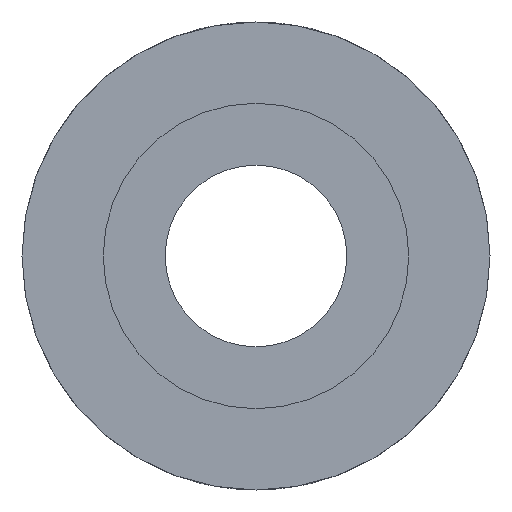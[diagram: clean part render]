
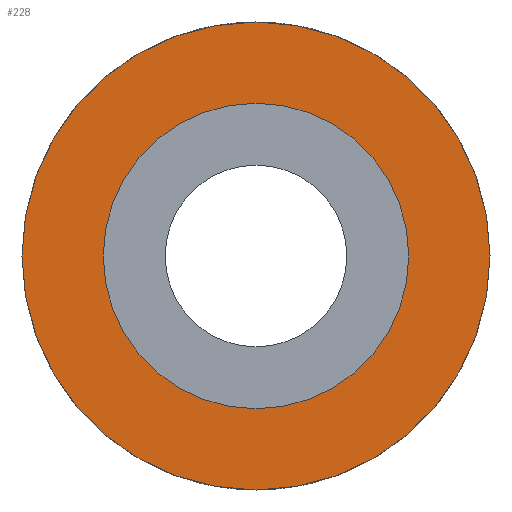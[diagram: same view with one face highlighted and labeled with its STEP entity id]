
A CAD part, left-side view. The second image highlights one B-rep face of the part: STEP entity #228.
In plain terms, the highlighted planar face has unit normal (-1, 0, 0).
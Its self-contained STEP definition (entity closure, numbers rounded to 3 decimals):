
#25=FACE_BOUND($,#76,.T.);
#42=CIRCLE($,#256,0.597);
#44=CIRCLE($,#259,0.914);
#57=FACE_OUTER_BOUND($,#75,.T.);
#75=EDGE_LOOP($,(#197));
#76=EDGE_LOOP($,(#198));
#122=VERTEX_POINT($,#395);
#124=VERTEX_POINT($,#400);
#149=EDGE_CURVE($,#122,#122,#42,.T.);
#151=EDGE_CURVE($,#124,#124,#44,.T.);
#197=ORIENTED_EDGE($,*,*,#151,.F.);
#198=ORIENTED_EDGE($,*,*,#149,.T.);
#214=PLANE($,#258);
#228=ADVANCED_FACE($,(#57,#25),#214,.T.);
#256=AXIS2_PLACEMENT_3D($,#396,#316,#317);
#258=AXIS2_PLACEMENT_3D($,#399,#320,#321);
#259=AXIS2_PLACEMENT_3D($,#401,#322,#323);
#316=DIRECTION('center_axis',(1.,0.,0.));
#317=DIRECTION('ref_axis',(0.,1.,0.));
#320=DIRECTION('center_axis',(-1.,0.,0.));
#321=DIRECTION('ref_axis',(0.,0.,1.));
#322=DIRECTION('center_axis',(1.,0.,0.));
#323=DIRECTION('ref_axis',(0.,1.,0.));
#395=CARTESIAN_POINT('',(1.295,0.597,0.));
#396=CARTESIAN_POINT('Origin',(1.295,0.,0.));
#399=CARTESIAN_POINT('Origin',(1.295,0.756,0.));
#400=CARTESIAN_POINT('',(1.295,0.914,0.));
#401=CARTESIAN_POINT('Origin',(1.295,0.,0.));
